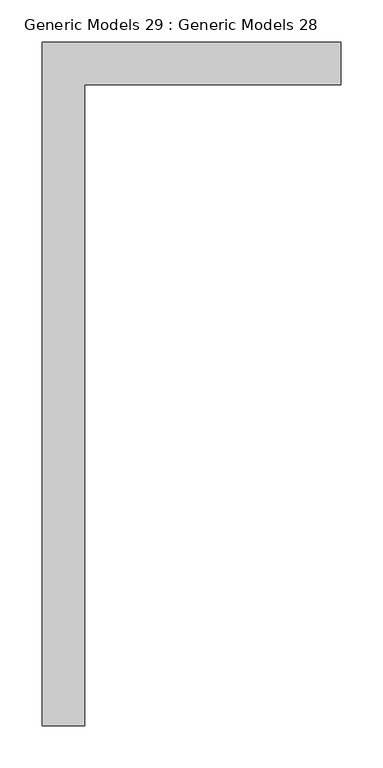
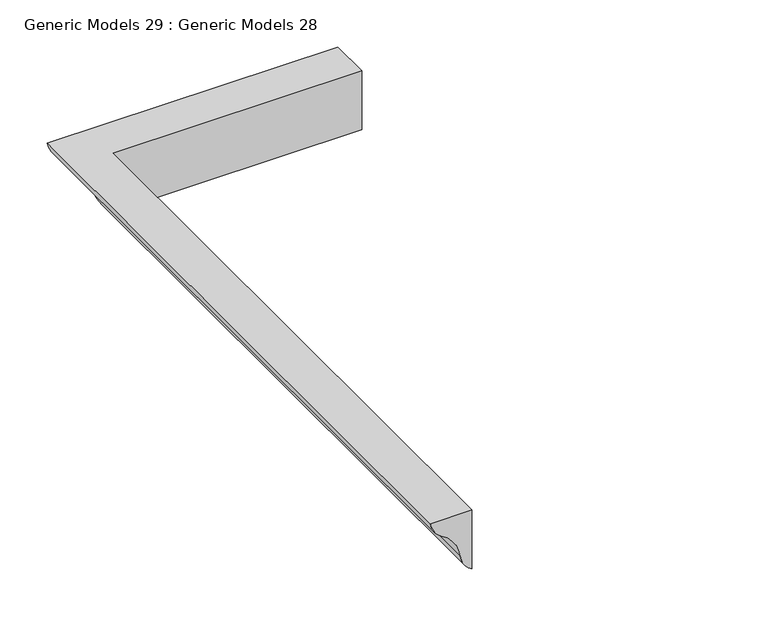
"""IFC4 building model written with IfcOpenShell, lengths in millimetres: proxy geometry, Generic Models 29 : Generic Models 28."""

from ifc_helpers import new_model, si_unit, frame, origin, place, context, project, spatial, polyline, circle_curve, ellipse_curve, source, transform, mapped, element, save
from ifc_brep_helpers import plane_surface, cylinder_surface, revolved_surface, advanced_brep


def generic_models_29_generic_models_28_72c6995c(model_context):
    return source(origin(), model_context, "Body", "AdvancedBrep", [
        advanced_brep(
        [(3822.7, 927.1, 5638.8), (3822.7, 941.189385, 5659.9340775), (3822.7, 963.810615, 5693.8659225), (3822.7, 977.9, 5715.0), (3822.7, 927.1, 5715.0), (3517.9, 927.1, 5638.8), (3503.810615, 941.189385, 5659.9340775), (3481.189385, 963.810615, 5693.8659225), (3467.1, 977.9, 5715.0), (3467.1, 165.1, 5715.0), (3517.9, 165.1, 5715.0), (3517.9, 927.1, 5715.0), (3517.9, 165.1, 5638.8), (3503.810615, 165.1, 5659.9340775), (3481.189385, 165.1, 5693.8659225)],
        [
            (0, 1, circle_curve(frame((3822.7, 913.1210601, 5663.3827937), z_axis=(1.0, 0.0, 0.0), x_axis=(0.0, -1.0, 0.0)), 28.2794007)),
            (1, 2, circle_curve(frame((3822.7, 986.2545198, 5654.3969868), z_axis=(-1.0, 0.0, 0.0), x_axis=(0.0, -1.0, 0.0)), 45.4040279)),
            (2, 3, circle_curve(frame((3822.7, 949.8316751, 5718.4487162), z_axis=(1.0, 0.0, 0.0), x_axis=(0.0, -1.0, 0.0)), 28.2794007)),
            (3, 4),
            (4, 0),
            (0, 5),
            (5, 6, ellipse_curve(frame((3531.8789399, 913.1210601, 5663.3827937), z_axis=(0.7071067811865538, 0.7071067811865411, 0.0), x_axis=(0.7071067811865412, -0.7071067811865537, 0.0)), 39.993112, 28.2794007)),
            (6, 1),
            (6, 7, ellipse_curve(frame((3458.7454802, 986.2545198, 5654.3969868), z_axis=(-0.7071067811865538, -0.7071067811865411, 0.0), x_axis=(-0.7071067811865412, 0.7071067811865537, 0.0)), 64.210992, 45.4040279)),
            (7, 2),
            (7, 8, ellipse_curve(frame((3495.1683249, 949.8316751, 5718.4487162), z_axis=(0.7071067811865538, 0.7071067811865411, 0.0), x_axis=(0.7071067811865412, -0.7071067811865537, 0.0)), 39.993112, 28.2794007)),
            (8, 3),
            (8, 9),
            (9, 10),
            (10, 11),
            (11, 4),
            (11, 5),
            (5, 12),
            (12, 13, circle_curve(frame((3531.8789399, 165.1, 5663.3827937), z_axis=(0.0, 1.0, 0.0), x_axis=(1.0, 0.0, 0.0)), 28.2794007)),
            (13, 6),
            (13, 14, circle_curve(frame((3458.7454802, 165.1, 5654.3969868), z_axis=(0.0, -1.0, 0.0), x_axis=(1.0, 0.0, 0.0)), 45.4040279)),
            (14, 7),
            (14, 9, circle_curve(frame((3495.1683249, 165.1, 5718.4487162), z_axis=(0.0, 1.0, 0.0), x_axis=(1.0, 0.0, 0.0)), 28.2794007)),
            (10, 12),
        ],
        [
            plane_surface(frame((3822.7, 927.1, 5638.8), z_axis=(1.0, 0.0, 0.0), x_axis=(0.0, 0.0, 1.0))),
            cylinder_surface(frame((3822.7, 913.1210601, 5663.3827937), z_axis=(1.0, 0.0, 0.0), x_axis=(0.0, -1.0, 0.0)), 28.2794007),
            revolved_surface(polyline([(3413.3414523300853, 940.8504919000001, 5654.3969868), (3822.7, 940.8504919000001, 5654.3969868)]), (3822.7, 986.2545198, 5654.3969868), (-1.0, 0.0, 0.0)),
            cylinder_surface(frame((3822.7, 949.8316751, 5718.4487162), z_axis=(1.0, 0.0, 0.0), x_axis=(0.0, -1.0, 0.0)), 28.2794007),
            plane_surface(frame((3822.7, 977.9, 5715.0), z_axis=(0.0, 0.0, 1.0), x_axis=(-1.0, 0.0, 0.0))),
            plane_surface(frame((3822.7, 927.1, 5715.0), z_axis=(0.0, -1.0, 0.0), x_axis=(-1.0, 0.0, 0.0))),
            cylinder_surface(frame((3531.8789399, 927.1, 5663.3827937), z_axis=(0.0, 1.0, 0.0), x_axis=(1.0, 0.0, 0.0)), 28.2794007),
            revolved_surface(polyline([(3504.1495081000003, 165.10000000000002, 5654.3969868), (3504.1495081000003, 1031.6585476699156, 5654.3969868)]), (3458.7454802, 927.1, 5654.3969868), (0.0, -1.0, 0.0)),
            cylinder_surface(frame((3495.1683249, 927.1, 5718.4487162), z_axis=(0.0, 1.0, 0.0), x_axis=(1.0, 0.0, 0.0)), 28.2794007),
            plane_surface(frame((3517.9, 927.1, 5715.0), z_axis=(1.0, 0.0, 0.0), x_axis=(0.0, -1.0, 0.0))),
            plane_surface(frame((3517.9, 165.1, 5638.8), z_axis=(0.0, -1.0, 0.0), x_axis=(0.0, 0.0, 1.0))),
        ],
        [
            (0, [[1, 2, 3, 4, 5]]),
            (1, [[-1, 6, 7, 8]]),
            (2, [[-2, -8, 9, 10]]),
            (3, [[-3, -10, 11, 12]]),
            (4, [[-4, -12, 13, 14, 15, 16]]),
            (5, [[-5, -16, 17, -6]]),
            (6, [[-7, 18, 19, 20]]),
            (7, [[-9, -20, 21, 22]]),
            (8, [[-11, -22, 23, -13]]),
            (9, [[-17, -15, 24, -18]]),
            (10, [[-24, -14, -23, -21, -19]]),
        ],
    ),
    ])


if __name__ == "__main__":
    model = new_model("IFC4")
    model_context = context("Model", 3, world=origin())
    ifc_project = project(units=[si_unit("LENGTHUNIT", "METRE", prefix="MILLI")], contexts=[model_context])
    site = spatial("IfcSite", under=ifc_project)
    building = spatial("IfcBuilding", under=site)
    placement = place(None, origin())
    generic_models_29_generic_models_28_shape = generic_models_29_generic_models_28_72c6995c(model_context)
    element("IfcBuildingElementProxy", 1, Name="Generic Models 29 : Generic Models 28", ObjectType="Generic Models 29 : Generic Models 28", at=placement, inside=building, context=model_context, shape_type="MappedRepresentation", body=[
        mapped(generic_models_29_generic_models_28_shape, transform((0.0, 0.0, 0.0), x_axis=(1.0, 0.0, 0.0), y_axis=(0.0, 1.0, 0.0), z_axis=(0.0, 0.0, 1.0))),
    ])
    save(model, "model.ifc")
